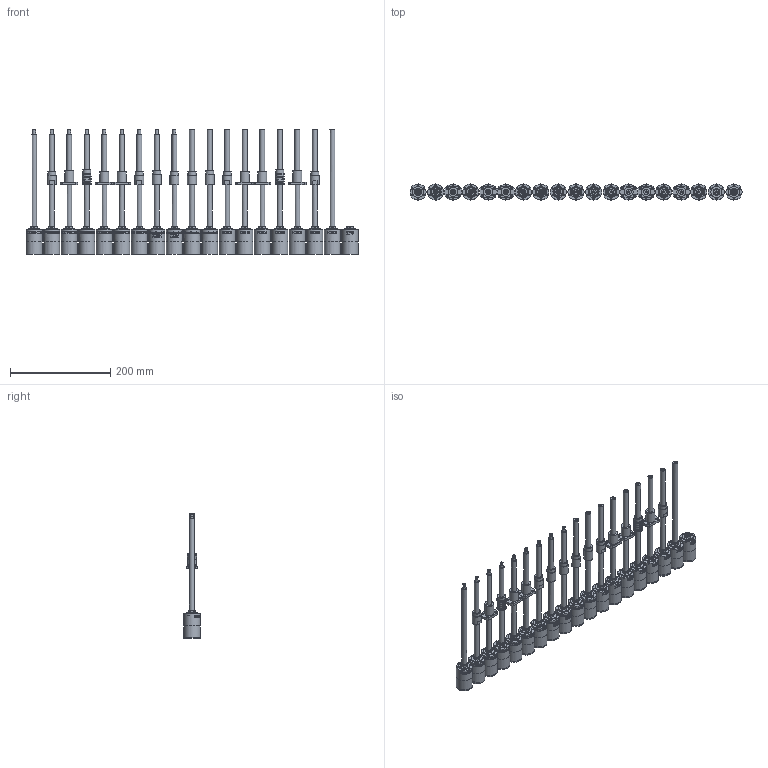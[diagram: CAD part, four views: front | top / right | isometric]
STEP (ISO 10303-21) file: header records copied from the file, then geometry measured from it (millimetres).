
FILE_DESCRIPTION(/* description */ (''),/* implementation_level */ '2;1');
FILE_NAME(/* name */ '32L-2stage_standard_KWNx_KWS1_KF9.stp',/* time_stamp */ '2024-02-27T15:27:00+01:00',/* author */ ('DR. FRITZ FAULHABER GmbH & Co. KG'),/* organization */ ('DR. FRITZ FAULHABER GmbH & Co. KG'),/* preprocessor_version */ 'ST-DEVELOPER v19.3',/* originating_system */ 'SIEMENS PLM Software NX2212.4000',/* authorisation */ '');
FILE_SCHEMA (('AUTOMOTIVE_DESIGN { 1 0 10303 214 3 1 1 1 }'));
Length unit declared in the file: millimetre
Products named in the file (1): C_objects
Bounding box: 662 x 32.01 x 249.1 mm (x, y, z)
Volume: 1075741.1 mm3; surface area: 277761.8 mm2
Topology: 19 solids, 19 shells, 2862 faces, 6774 edges, 4468 vertices
Faces by surface type: plane 1502, cylinder 687, bspline 614, torus 38, cone 21
Full cylindrical faces by diameter (mm): 2.5 x114, 4.5 x25, 6 x9, 6.4 x1, 7.5 x1, 8.1 x1, 10 x52, 10.6 x18, 14.568 x19, 15.8 x2, 16 x10, 18 x31, 18.5 x2, 22 x19, 29.5 x2, 29.8 x19, 31.999 x19, 32 x38
Entity records: 184473 total; most frequent: CARTESIAN_POINT 114258, ORIENTED_EDGE 12368, DIRECTION 9227, EDGE_CURVE 6184, VERTEX_POINT 4356, EDGE_LOOP 3995, AXIS2_PLACEMENT_3D 3855, B_SPLINE_CURVE_WITH_KNOTS 3062
